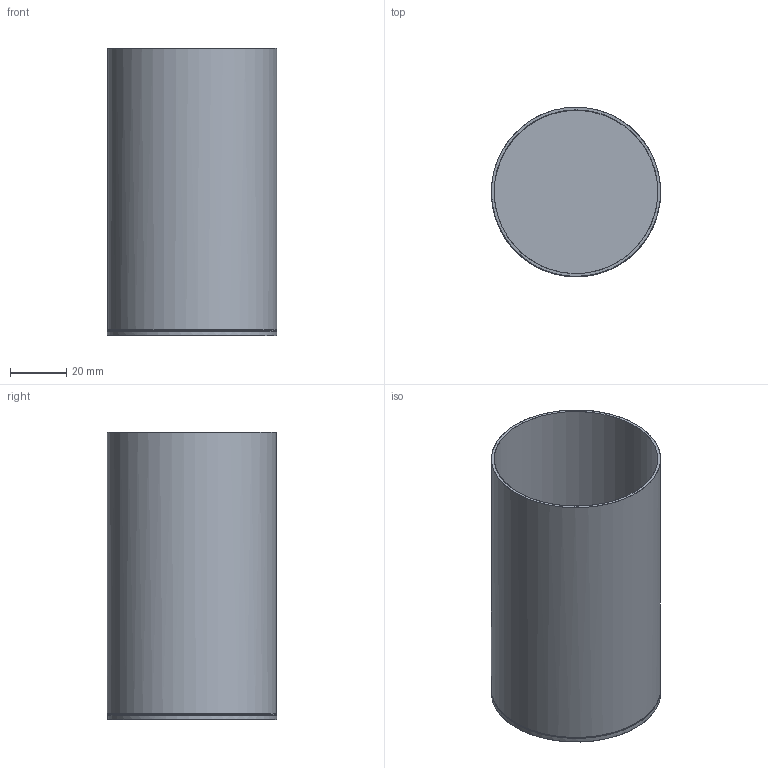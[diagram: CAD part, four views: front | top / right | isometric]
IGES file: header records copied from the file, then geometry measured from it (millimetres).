
Global section: file name: /Users/f/Desktop/II/AM745.igs; native system: Rhinoceros ( Jul 22 2010 ); preprocessor: Trout Lake IGES 012 Jul 22 2010; date: 100802.151103; units: millimetre
Bounding box: 60 x 60 x 101.8 mm (x, y, z)
Surface area: 46927.4 mm2 (no closed solid volume)
Topology: 0 solids, 0 shells, 10 faces, 208 edges, 203 vertices
Faces by surface type: bspline 10
